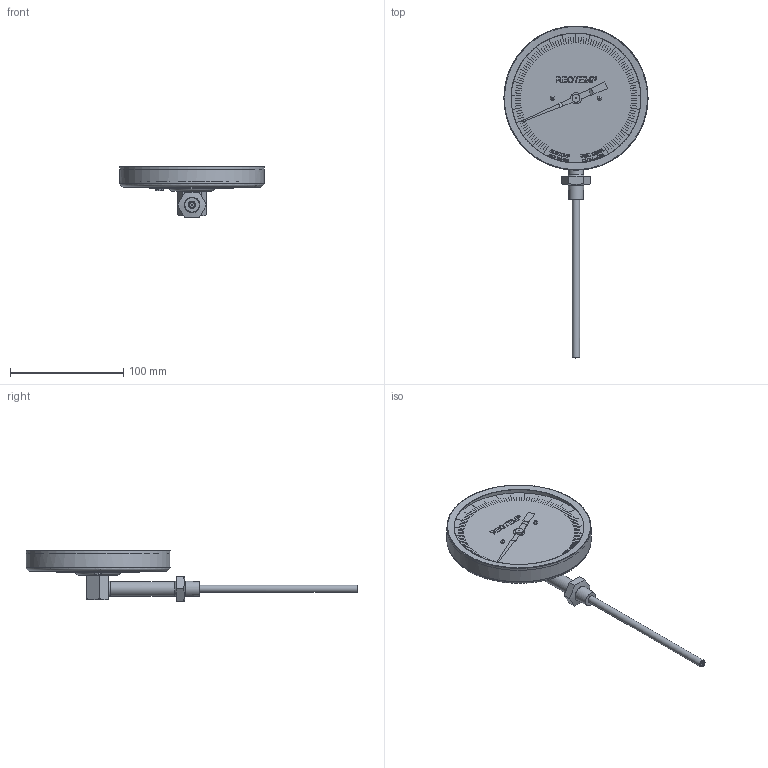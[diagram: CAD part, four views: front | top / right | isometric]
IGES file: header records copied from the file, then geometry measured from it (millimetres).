
Global section: file name: VR-quarter-NPT-IGS; native system: Autodesk Inventor 2014; preprocessor: unknown; author: Charles; date: 20151109.114653; units: inch
Bounding box: 127 x 292.62 x 44.94 mm (x, y, z)
Volume: 104828.6 mm3; surface area: 75053.4 mm2
Topology: 17 solids, 17 shells, 1292 faces, 3351 edges, 2232 vertices
Faces by surface type: bspline 1292
